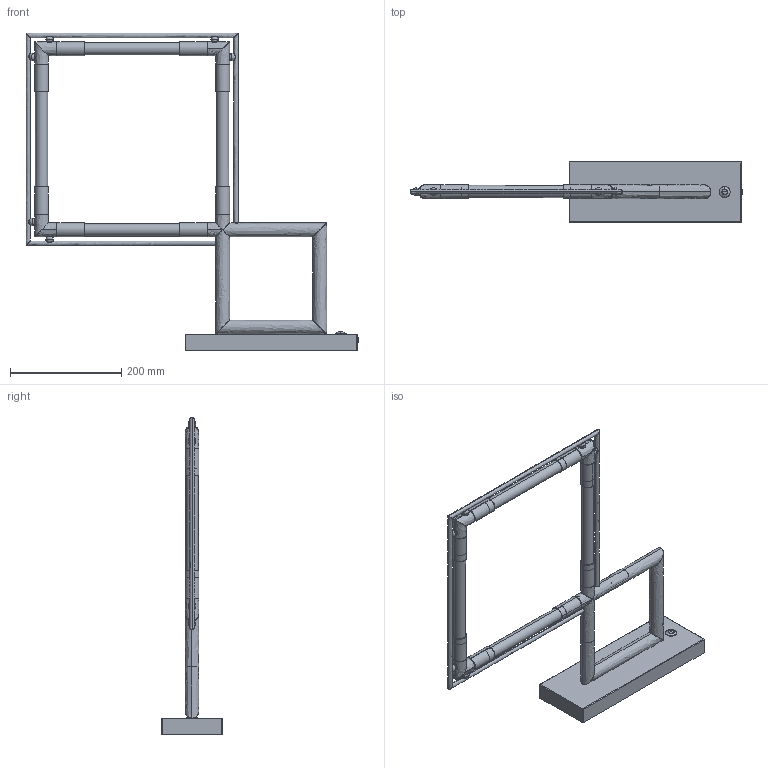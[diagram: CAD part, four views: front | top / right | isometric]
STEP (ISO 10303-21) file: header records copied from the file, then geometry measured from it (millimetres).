
FILE_DESCRIPTION(/* description */ (''),/* implementation_level */ '2;1');
FILE_NAME(/* name */ 'QUADRO~1',/* time_stamp */ '2022-12-30T12:59:13+01:00',/* author */ (''),/* organization */ (''),/* preprocessor_version */ 'ST-DEVELOPER v15',/* originating_system */ '',/* authorisation */ '');
FILE_SCHEMA (('AUTOMOTIVE_DESIGN'));
Length unit declared in the file: millimetre
Products named in the file (1): Document
Bounding box: 597.6 x 110 x 571.51 mm (x, y, z)
Volume: 501771.9 mm3; surface area: 320545.1 mm2
Topology: 16 solids, 69 shells, 275 faces, 713 edges, 479 vertices
Faces by surface type: bspline 205, plane 70
Entity records: 25428 total; most frequent: CARTESIAN_POINT 20886, ORIENTED_EDGE 1147, EDGE_CURVE 663, VERTEX_POINT 479, B_SPLINE_CURVE_WITH_KNOTS 392, EDGE_LOOP 321, ADVANCED_FACE 275, FACE_OUTER_BOUND 275
